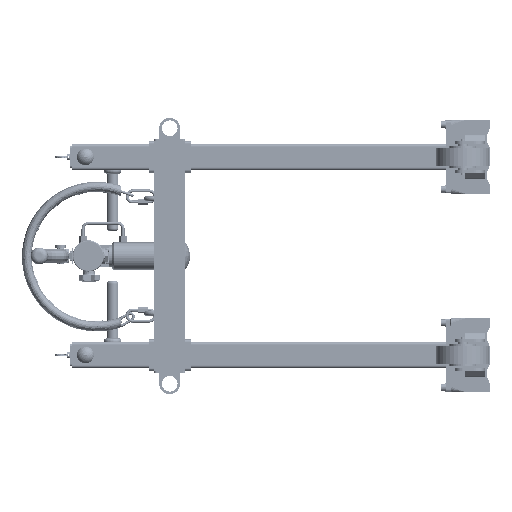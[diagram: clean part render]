
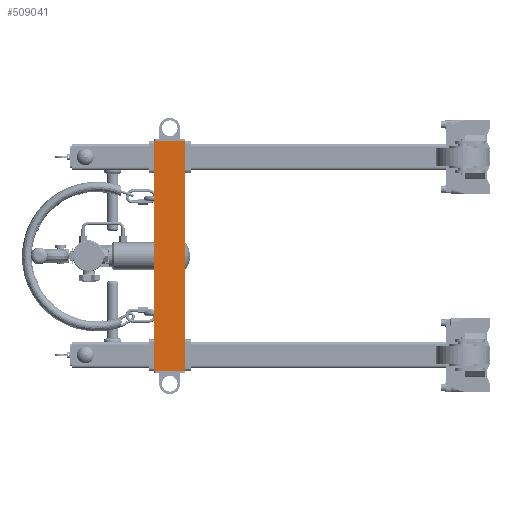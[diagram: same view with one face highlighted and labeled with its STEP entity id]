
A CAD part, left-side view. The second image highlights one B-rep face of the part: STEP entity #509041.
In plain terms, the highlighted planar face has unit normal (-1, 0, 0).
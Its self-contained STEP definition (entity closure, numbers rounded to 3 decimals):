
#4493 = EDGE_CURVE ( 'NONE', #448920, #1165339, #855511, .T. ) ;
#22410 = ORIENTED_EDGE ( 'NONE', *, *, #4493, .F. ) ;
#32632 = VECTOR ( 'NONE', #291518, 1000. ) ;
#38821 = VECTOR ( 'NONE', #503664, 1000. ) ;
#134777 = CARTESIAN_POINT ( 'NONE',  ( -124., 644.25, -338.88 ) ) ;
#152377 = VECTOR ( 'NONE', #198528, 1000. ) ;
#198528 = DIRECTION ( 'NONE',  ( 0., -1., 0. ) ) ;
#238874 = CARTESIAN_POINT ( 'NONE',  ( -124., 644.25, 101.12 ) ) ;
#241395 = ORIENTED_EDGE ( 'NONE', *, *, #732772, .T. ) ;
#247341 = CARTESIAN_POINT ( 'NONE',  ( -124., 644.25, 101.12 ) ) ;
#255203 = DIRECTION ( 'NONE',  ( 1., 0., 0. ) ) ;
#291518 = DIRECTION ( 'NONE',  ( 0., 0., -1. ) ) ;
#328985 = EDGE_LOOP ( 'NONE', ( #241395, #1106169, #22410, #1106866 ) ) ;
#378316 = CARTESIAN_POINT ( 'NONE',  ( -124., 584.25, 101.12 ) ) ;
#397912 = LINE ( 'NONE', #134777, #38821 ) ;
#423871 = DIRECTION ( 'NONE',  ( 0., 0., -1. ) ) ;
#448171 = AXIS2_PLACEMENT_3D ( 'NONE', #247341, #255203, #423871 ) ;
#448920 = VERTEX_POINT ( 'NONE', #238874 ) ;
#503664 = DIRECTION ( 'NONE',  ( 0., -1., 0. ) ) ;
#509041 = ADVANCED_FACE ( 'NONE', ( #735808 ), #1158078, .F. ) ;
#530074 = CARTESIAN_POINT ( 'NONE',  ( -124., 644.25, -338.88 ) ) ;
#559763 = VERTEX_POINT ( 'NONE', #747993 ) ;
#578100 = EDGE_CURVE ( 'NONE', #448920, #931239, #1123912, .T. ) ;
#657788 = CARTESIAN_POINT ( 'NONE',  ( -124., 584.25, 101.12 ) ) ;
#672402 = CARTESIAN_POINT ( 'NONE',  ( -124., 644.25, 101.12 ) ) ;
#732772 = EDGE_CURVE ( 'NONE', #931239, #559763, #397912, .T. ) ;
#735808 = FACE_OUTER_BOUND ( 'NONE', #328985, .T. ) ;
#736988 = LINE ( 'NONE', #657788, #1153926 ) ;
#747839 = CARTESIAN_POINT ( 'NONE',  ( -124., 644.25, 101.12 ) ) ;
#747993 = CARTESIAN_POINT ( 'NONE',  ( -124., 584.25, -338.88 ) ) ;
#846140 = DIRECTION ( 'NONE',  ( 0., 0., -1. ) ) ;
#855511 = LINE ( 'NONE', #747839, #152377 ) ;
#855563 = EDGE_CURVE ( 'NONE', #1165339, #559763, #736988, .T. ) ;
#931239 = VERTEX_POINT ( 'NONE', #530074 ) ;
#1106169 = ORIENTED_EDGE ( 'NONE', *, *, #855563, .F. ) ;
#1106866 = ORIENTED_EDGE ( 'NONE', *, *, #578100, .T. ) ;
#1123912 = LINE ( 'NONE', #672402, #32632 ) ;
#1153926 = VECTOR ( 'NONE', #846140, 1000. ) ;
#1158078 = PLANE ( 'NONE',  #448171 ) ;
#1165339 = VERTEX_POINT ( 'NONE', #378316 ) ;
